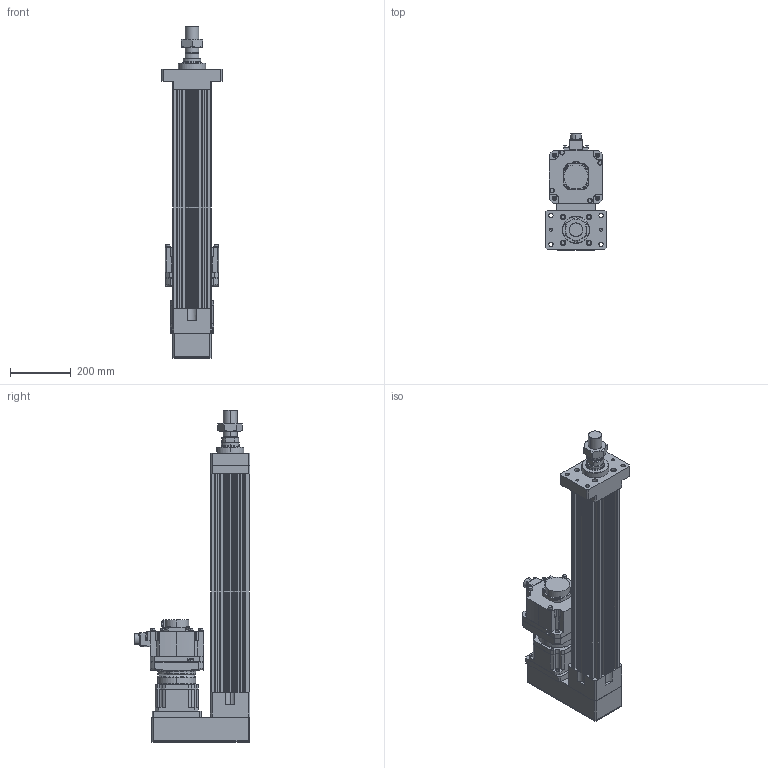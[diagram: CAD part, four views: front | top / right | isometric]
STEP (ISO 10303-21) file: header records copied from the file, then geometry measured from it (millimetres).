
FILE_DESCRIPTION (( 'STEP AP203' ), '1' );
FILE_NAME ('HES130FS(HS)-P500-W020G00-M-FMA.STEP', '2023-01-30T06:36:47', ( 'tms' ), ( '' ), 'SwSTEP 2.0', 'SolidWorks 2013', '' );
FILE_SCHEMA (( 'CONFIG_CONTROL_DESIGN' ));
Length unit declared in the file: millimetre
Products named in the file (9): P1301500001; HES130-P500-G142-FMA; AB1421; HES130FS(HS)-P500-W020G00-M-FMA; P0403500801; AB142-003[HG-SR352]; HES130 ROD M ST500; HG-SR202; M45X1.5P
Assembly tree (8 placements, depth 3):
  HES130FS(HS)-P500-W020G00-M-FMA
    HES130-P500-G142-FMA
    HES130 ROD M ST500
    M45X1.5P
    AB142-003[HG-SR352]
      AB1421
      P1301500001
      P0403500801
    HG-SR202
Bounding box: 200 x 381.85 x 1094 mm (x, y, z)
Volume: 14495452.6 mm3; surface area: 1717038.7 mm2
Topology: 4 solids, 18 shells, 1401 faces, 3660 edges, 2370 vertices
Faces by surface type: cylinder 643, plane 530, cone 146, bspline 76, torus 6
Entity records: 52014 total; most frequent: CARTESIAN_POINT 16222, DIRECTION 7460, ORIENTED_EDGE 7222, EDGE_CURVE 3633, AXIS2_PLACEMENT_3D 2825, VERTEX_POINT 2370, LINE 1810, VECTOR 1810
